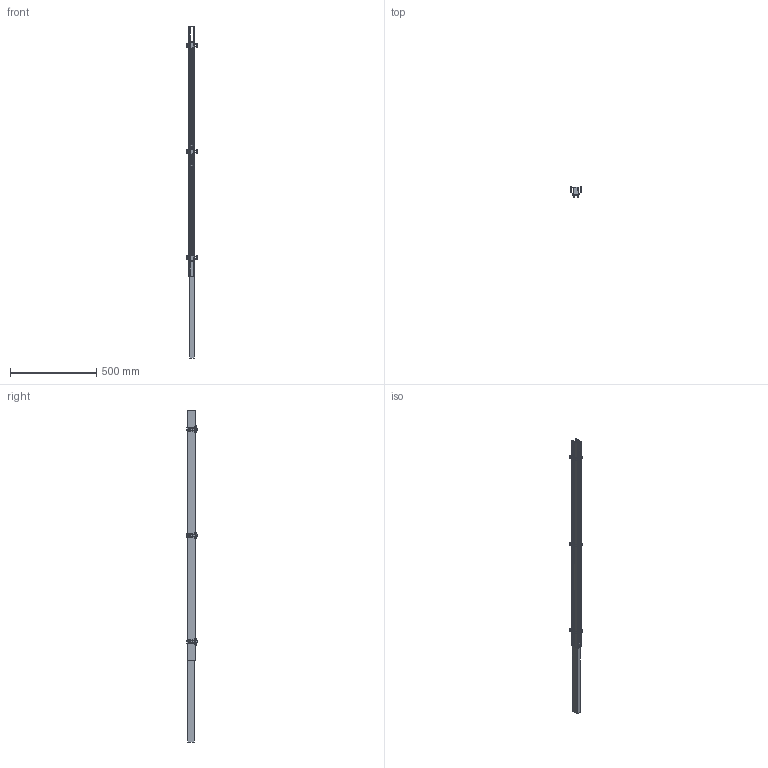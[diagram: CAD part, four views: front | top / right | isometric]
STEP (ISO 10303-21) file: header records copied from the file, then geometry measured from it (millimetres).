
FILE_DESCRIPTION(/* description */ ('Unknown'),/* implementation_level */ '2;1');
FILE_NAME(/* name */ '98376',/* time_stamp */ '2023-02-07T05:20:11-05:00',/* author */ ('Unknown'),/* organization */ ('Unknown'),/* preprocessor_version */ 'ST-DEVELOPER v18.1',/* originating_system */ 'Solid Edge',/* authorisation */ 'Unknown');
FILE_SCHEMA (('AUTOMOTIVE_DESIGN {1 0 10303 214 3 1 1}'));
Length unit declared in the file: millimetre
Products named in the file (8): CONTROCASSA A MOLLE; LED-PRO887; LED-RIV004; ATTACCO+MOLLE; LED-STA336; LED-MOL030; LED-OR130; LED-POL022
Assembly tree (22 placements, depth 3):
  CONTROCASSA A MOLLE
    LED-PRO887
    LED-RIV004  x12
    ATTACCO+MOLLE  x3
      LED-STA336
      LED-MOL030
      LED-OR130
    LED-POL022
Bounding box: 66.41 x 58.98 x 1922 mm (x, y, z)
Volume: 1782532.7 mm3; surface area: 630702.7 mm2
Topology: 29 solids, 29 shells, 1884 faces, 4598 edges, 2674 vertices
Faces by surface type: cylinder 808, plane 428, bspline 282, torus 210, sphere 156
Full cylindrical faces by diameter (mm): 1.5 x48, 3.2 x12, 3.3 x12, 3.5 x12, 6.5 x12
Entity records: 20090 total; most frequent: CARTESIAN_POINT 5392, DIRECTION 3055, ORIENTED_EDGE 3030, EDGE_CURVE 1515, AXIS2_PLACEMENT_3D 1167, VERTEX_POINT 977, LINE 721, VECTOR 721
